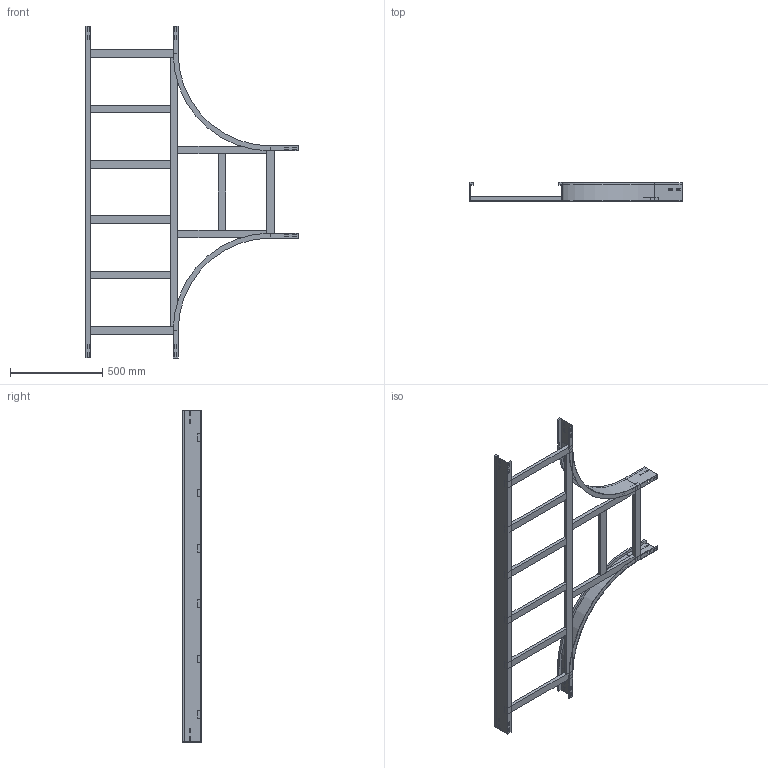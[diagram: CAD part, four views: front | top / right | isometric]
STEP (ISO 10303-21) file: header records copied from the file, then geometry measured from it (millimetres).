
FILE_DESCRIPTION (( 'STEP AP214' ), '1' );
FILE_NAME ('15B5D500.step', '2025-02-21T15:49:05', ( '' ), ( '' ), 'SwSTEP 2.0', 'SolidWorks 2023', '' );
FILE_SCHEMA (( 'AUTOMOTIVE_DESIGN' ));
Length unit declared in the file: millimetre
Products named in the file (8): TRAVERSINO_VERT_R500; TRAVERSINO_INTERMEDIO_R500+500; TRAVERSINO_COPPIA_500; TRAVERSINO_LONG._R500+500; LONGH.RETT_H100_R500+500; TRAVERSINO_500; 15B5D500; LONGH.INTERNO 90°_H100_R500
Assembly tree (14 placements, depth 2):
  15B5D500
    LONGH.INTERNO 90°_H100_R500  x2
    LONGH.RETT_H100_R500+500
    TRAVERSINO_500  x3
    TRAVERSINO_LONG._R500+500
    TRAVERSINO_INTERMEDIO_R500+500  x4
    TRAVERSINO_VERT_R500  x2
    TRAVERSINO_COPPIA_500
Bounding box: 1150 x 100 x 1800 mm (x, y, z)
Volume: 6736517.8 mm3; surface area: 1900103.9 mm2
Topology: 14 solids, 14 shells, 224 faces, 556 edges, 360 vertices
Faces by surface type: plane 216, cylinder 8
Entity records: 4209 total; most frequent: CARTESIAN_POINT 695, ORIENTED_EDGE 664, DIRECTION 634, EDGE_CURVE 332, VECTOR 324, LINE 324, VERTEX_POINT 216, EDGE_LOOP 162
